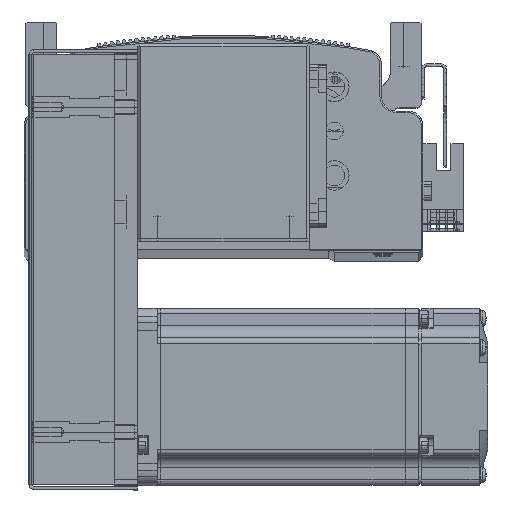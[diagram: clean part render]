
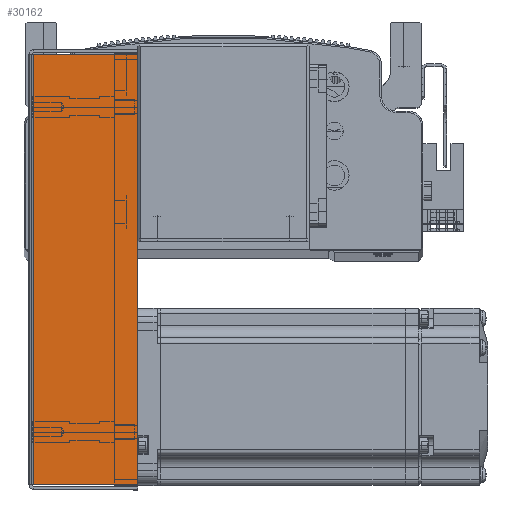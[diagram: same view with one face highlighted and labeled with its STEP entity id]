
A CAD part, top view. The second image highlights one B-rep face of the part: STEP entity #30162.
In plain terms, the highlighted planar face has unit normal (0, 0, 1) as drawn and (0, 0, -1) by its records, which use the part's own axes.
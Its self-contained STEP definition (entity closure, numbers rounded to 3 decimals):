
#21939 = CARTESIAN_POINT ( 'NONE',  ( 72.793, 36., -34.5 ) ) ;
#21949 = CARTESIAN_POINT ( 'NONE',  ( -72.793, 0.737, -34.5 ) ) ;
#22032 = CARTESIAN_POINT ( 'NONE',  ( 72.793, 0.737, -34.5 ) ) ;
#22075 = CARTESIAN_POINT ( 'NONE',  ( -72.793, 36., -34.5 ) ) ;
#23891 = VERTEX_POINT ( 'NONE', #22075 ) ;
#23894 = VERTEX_POINT ( 'NONE', #21939 ) ;
#23899 = VERTEX_POINT ( 'NONE', #22032 ) ;
#23908 = VERTEX_POINT ( 'NONE', #21949 ) ;
#26719 = EDGE_LOOP ( 'NONE', ( #81977, #81940, #82025, #81943 ) ) ;
#30162 = ADVANCED_FACE ( 'NONE', ( #87857 ), #40536, .F. ) ;
#37899 = EDGE_CURVE ( 'NONE', #23891, #23894, #50100, .T. ) ;
#37902 = EDGE_CURVE ( 'NONE', #23908, #23891, #50184, .T. ) ;
#37949 = EDGE_CURVE ( 'NONE', #23899, #23894, #50255, .T. ) ;
#37973 = EDGE_CURVE ( 'NONE', #23908, #23899, #50433, .T. ) ;
#40525 = DIRECTION ( 'NONE',  ( 0., -1., 0. ) ) ;
#40536 = PLANE ( 'NONE',  #55300 ) ;
#40551 = CARTESIAN_POINT ( 'NONE',  ( 0., 0., -34.5 ) ) ;
#40557 = DIRECTION ( 'NONE',  ( 0., 0., 1. ) ) ;
#45969 = CARTESIAN_POINT ( 'NONE',  ( 74.5, 0.737, -34.5 ) ) ;
#46016 = DIRECTION ( 'NONE',  ( 1., 0., 0. ) ) ;
#50100 = LINE ( 'NONE', #72764, #50176 ) ;
#50102 = VECTOR ( 'NONE', #72854, 1000. ) ;
#50176 = VECTOR ( 'NONE', #72753, 1000. ) ;
#50184 = LINE ( 'NONE', #72856, #50102 ) ;
#50255 = LINE ( 'NONE', #73241, #50278 ) ;
#50278 = VECTOR ( 'NONE', #73230, 1000. ) ;
#50397 = VECTOR ( 'NONE', #46016, 1000. ) ;
#50433 = LINE ( 'NONE', #45969, #50397 ) ;
#55300 = AXIS2_PLACEMENT_3D ( 'NONE', #40551, #40557, #40525 ) ;
#72753 = DIRECTION ( 'NONE',  ( 1., 0., 0. ) ) ;
#72764 = CARTESIAN_POINT ( 'NONE',  ( 0., 36., -34.5 ) ) ;
#72854 = DIRECTION ( 'NONE',  ( 0., 1., 0. ) ) ;
#72856 = CARTESIAN_POINT ( 'NONE',  ( -72.793, 0., -34.5 ) ) ;
#73230 = DIRECTION ( 'NONE',  ( 0., 1., 0. ) ) ;
#73241 = CARTESIAN_POINT ( 'NONE',  ( 72.793, 0., -34.5 ) ) ;
#81940 = ORIENTED_EDGE ( 'NONE', *, *, #37902, .T. ) ;
#81943 = ORIENTED_EDGE ( 'NONE', *, *, #37949, .F. ) ;
#81977 = ORIENTED_EDGE ( 'NONE', *, *, #37973, .F. ) ;
#82025 = ORIENTED_EDGE ( 'NONE', *, *, #37899, .T. ) ;
#87857 = FACE_OUTER_BOUND ( 'NONE', #26719, .T. ) ;
